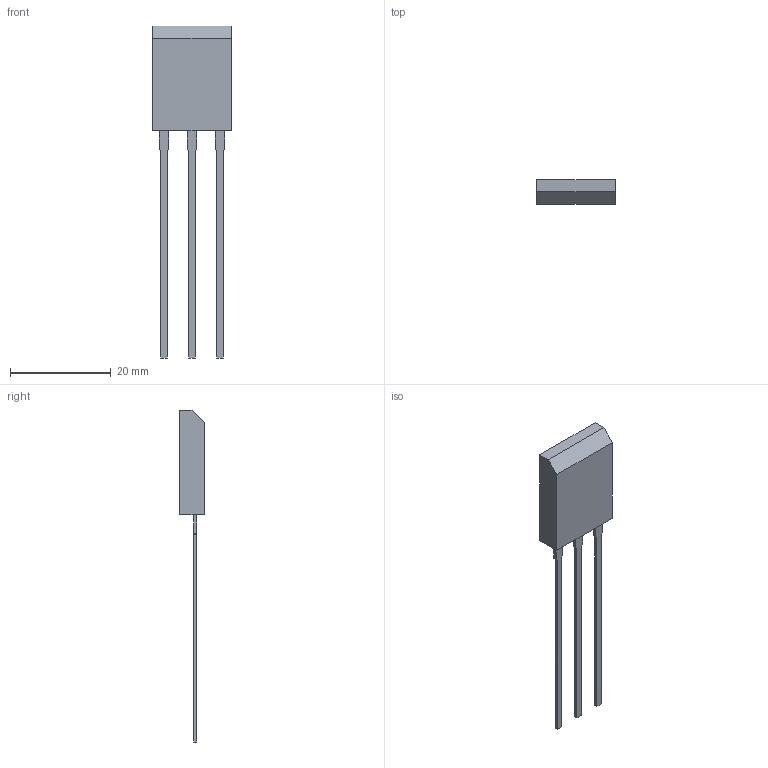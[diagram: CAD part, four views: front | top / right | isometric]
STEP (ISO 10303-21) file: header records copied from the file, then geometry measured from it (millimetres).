
FILE_DESCRIPTION(('FreeCAD Model'),'2;1');
FILE_NAME('/var/www/3D/0T/1281950.3.1.stp','2025-01-22T23:33:37',( 'Author'),(''),'Open CASCADE STEP processor 6.9','FreeCAD','Unknown' );
FILE_SCHEMA(('AUTOMOTIVE_DESIGN { 1 0 10303 214 1 1 1 1 }'));
Length unit declared in the file: millimetre
Products named in the file (3): ASSEMBLY; Body; PinsArray
Assembly tree (2 placements, depth 2):
  ASSEMBLY
    Body
    PinsArray
Bounding box: 15.62 x 4.82 x 65.89 mm (x, y, z)
Volume: 1630.4 mm3; surface area: 1500 mm2
Topology: 4 solids, 4 shells, 37 faces, 87 edges, 58 vertices
Faces by surface type: plane 37
Entity records: 2252 total; most frequent: CARTESIAN_POINT 359, DIRECTION 341, LINE 261, VECTOR 261, ORIENTED_EDGE 174, PCURVE 174, DEFINITIONAL_REPRESENTATION 174, EDGE_CURVE 87
